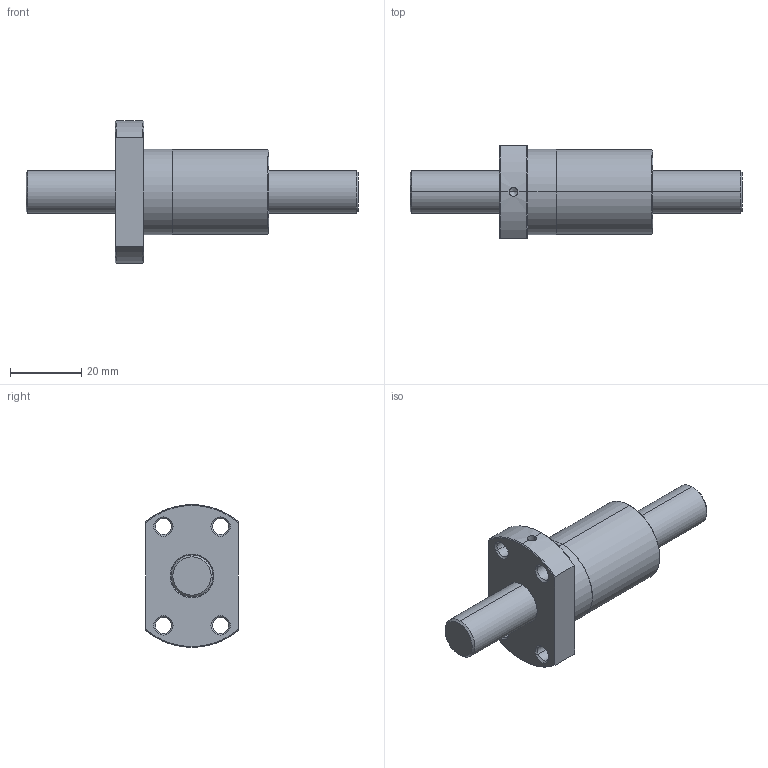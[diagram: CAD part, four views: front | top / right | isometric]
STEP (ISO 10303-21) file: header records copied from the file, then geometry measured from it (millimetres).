
FILE_DESCRIPTION(('no description'),'unknown implementation level');
FILE_NAME('R12_10K3_FSCDIN_93_93_0_052_2.stp',' ',('HIWIN GmbH'),('CADClick - KiM GmbH - www.kimweb.de'),'unknown preprocess','ACIS','unknown authorization');
FILE_SCHEMA(('automotive_design'));
Length unit declared in the file: millimetre
Products named in the file (2): 1; 2
Bounding box: 93 x 26 x 40 mm (x, y, z)
Volume: 28208.8 mm3; surface area: 10824.9 mm2
Topology: 2 solids, 2 shells, 66 faces, 149 edges, 87 vertices
Faces by surface type: cone 36, cylinder 22, plane 8
Entity records: 3611 total; most frequent: CARTESIAN_POINT 353, DIRECTION 349, STYLED_ITEM 302, PRESENTATION_STYLE_ASSIGNMENT 302, COLOUR_RGB 302, ORIENTED_EDGE 294, EDGE_CURVE 147, CURVE_STYLE 147
